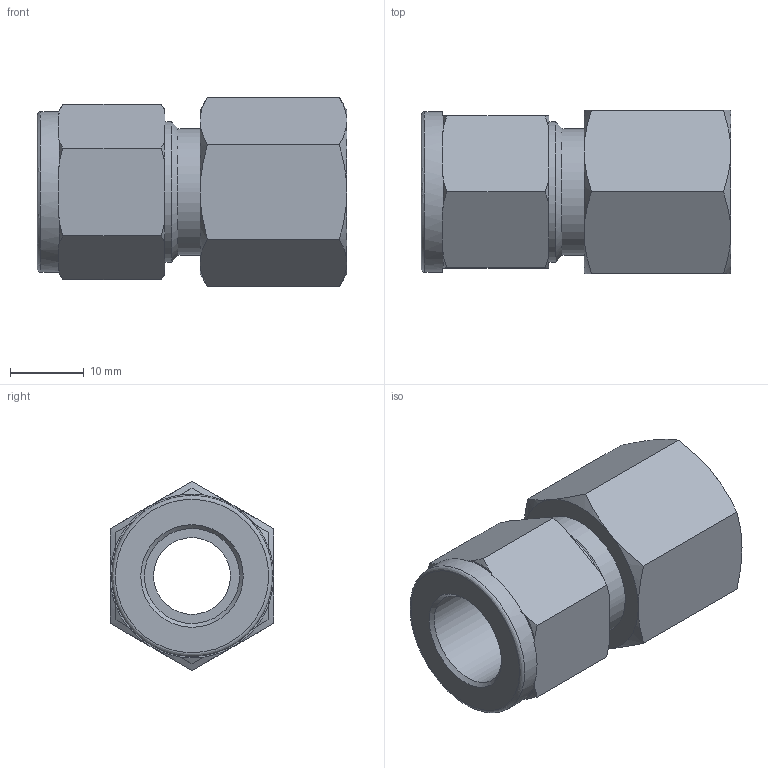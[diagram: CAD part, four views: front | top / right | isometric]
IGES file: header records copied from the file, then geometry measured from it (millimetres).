
Global section: file name: SFC-8-6N; native system: Autodesk Inventor 2016; preprocessor: unknown; author: 배성훈,,11,0; organization: 20151010.073128; date: 20151019.102641; units: millimetre
Bounding box: 42 x 22.22 x 25.66 mm (x, y, z)
Volume: 9986.8 mm3; surface area: 5624.7 mm2
Topology: 1 solids, 1 shells, 65 faces, 175 edges, 116 vertices
Faces by surface type: bspline 65
